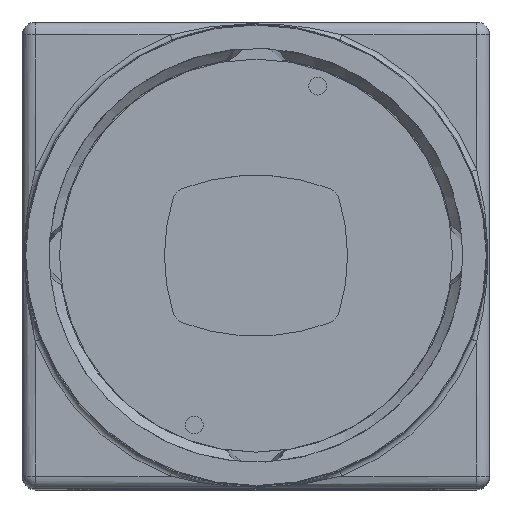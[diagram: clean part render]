
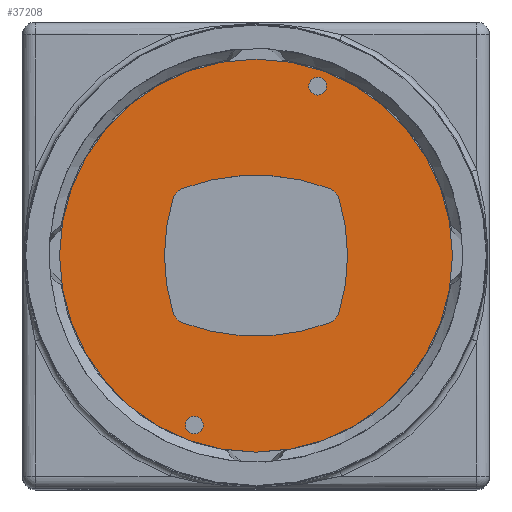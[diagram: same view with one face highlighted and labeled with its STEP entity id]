
A CAD part, top view. The second image highlights one B-rep face of the part: STEP entity #37208.
In plain terms, the highlighted planar face has unit normal (0, 0, 1).
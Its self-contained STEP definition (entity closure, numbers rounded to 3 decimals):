
#5740=PLANE('',#39851);
#12806=ORIENTED_EDGE('',*,*,#16437,.T.);
#12807=ORIENTED_EDGE('',*,*,#16438,.T.);
#12808=ORIENTED_EDGE('',*,*,#16421,.T.);
#12809=ORIENTED_EDGE('',*,*,#16439,.T.);
#12810=ORIENTED_EDGE('',*,*,#16431,.T.);
#12811=ORIENTED_EDGE('',*,*,#16440,.T.);
#12812=ORIENTED_EDGE('',*,*,#16427,.T.);
#12813=ORIENTED_EDGE('',*,*,#16441,.T.);
#12814=ORIENTED_EDGE('',*,*,#16423,.T.);
#12815=ORIENTED_EDGE('',*,*,#16442,.T.);
#12816=ORIENTED_EDGE('',*,*,#16436,.F.);
#16421=EDGE_CURVE('',#18895,#18894,#19972,.T.);
#16423=EDGE_CURVE('',#18896,#18897,#19973,.T.);
#16427=EDGE_CURVE('',#18900,#18901,#19975,.T.);
#16431=EDGE_CURVE('',#18904,#18905,#19977,.T.);
#16436=EDGE_CURVE('',#18909,#18909,#19980,.T.);
#16437=EDGE_CURVE('',#18910,#18910,#19981,.T.);
#16438=EDGE_CURVE('',#18911,#18911,#19982,.T.);
#16439=EDGE_CURVE('',#18894,#18904,#19983,.T.);
#16440=EDGE_CURVE('',#18905,#18900,#19984,.T.);
#16441=EDGE_CURVE('',#18901,#18896,#19985,.T.);
#16442=EDGE_CURVE('',#18897,#18895,#19986,.T.);
#18894=VERTEX_POINT('',#57066);
#18895=VERTEX_POINT('',#57068);
#18896=VERTEX_POINT('',#57072);
#18897=VERTEX_POINT('',#57073);
#18900=VERTEX_POINT('',#57081);
#18901=VERTEX_POINT('',#57082);
#18904=VERTEX_POINT('',#57090);
#18905=VERTEX_POINT('',#57091);
#18909=VERTEX_POINT('',#57101);
#18910=VERTEX_POINT('',#57104);
#18911=VERTEX_POINT('',#57106);
#19972=CIRCLE('',#39838,12.);
#19973=CIRCLE('',#39840,13.);
#19975=CIRCLE('',#39843,12.);
#19977=CIRCLE('',#39846,13.);
#19980=CIRCLE('',#39850,12.2);
#19981=CIRCLE('',#39852,0.55);
#19982=CIRCLE('',#39853,0.55);
#19983=CIRCLE('',#39854,1.);
#19984=CIRCLE('',#39855,1.);
#19985=CIRCLE('',#39856,1.);
#19986=CIRCLE('',#39857,1.);
#22067=EDGE_LOOP('',(#12806));
#22068=EDGE_LOOP('',(#12807));
#22069=EDGE_LOOP('',(#12808,#12809,#12810,#12811,#12812,#12813,#12814,#12815));
#22070=EDGE_LOOP('',(#12816));
#24152=FACE_BOUND('',#22067,.T.);
#24153=FACE_BOUND('',#22068,.T.);
#24154=FACE_BOUND('',#22069,.T.);
#24155=FACE_BOUND('',#22070,.T.);
#37208=ADVANCED_FACE('',(#24152,#24153,#24154,#24155),#5740,.F.);
#39838=AXIS2_PLACEMENT_3D('',#57067,#47189,#47190);
#39840=AXIS2_PLACEMENT_3D('',#57071,#47194,#47195);
#39843=AXIS2_PLACEMENT_3D('',#57080,#47202,#47203);
#39846=AXIS2_PLACEMENT_3D('',#57089,#47210,#47211);
#39850=AXIS2_PLACEMENT_3D('',#57100,#47220,#47221);
#39851=AXIS2_PLACEMENT_3D('',#57102,#47222,#47223);
#39852=AXIS2_PLACEMENT_3D('',#57103,#47224,#47225);
#39853=AXIS2_PLACEMENT_3D('',#57105,#47226,#47227);
#39854=AXIS2_PLACEMENT_3D('',#57107,#47228,#47229);
#39855=AXIS2_PLACEMENT_3D('',#57108,#47230,#47231);
#39856=AXIS2_PLACEMENT_3D('',#57109,#47232,#47233);
#39857=AXIS2_PLACEMENT_3D('',#57110,#47234,#47235);
#47189=DIRECTION('',(0.,0.,-1.));
#47190=DIRECTION('',(-1.,0.,0.));
#47194=DIRECTION('',(0.,0.,-1.));
#47195=DIRECTION('',(1.,0.,0.));
#47202=DIRECTION('',(0.,0.,-1.));
#47203=DIRECTION('',(1.,0.,0.));
#47210=DIRECTION('',(0.,0.,-1.));
#47211=DIRECTION('',(1.,0.,0.));
#47220=DIRECTION('',(0.,0.,-1.));
#47221=DIRECTION('',(-1.,0.,0.));
#47222=DIRECTION('',(0.,0.,-1.));
#47223=DIRECTION('',(-1.,0.,0.));
#47224=DIRECTION('',(0.,0.,-1.));
#47225=DIRECTION('',(0.,-1.,0.));
#47226=DIRECTION('',(0.,0.,-1.));
#47227=DIRECTION('',(0.,-1.,0.));
#47228=DIRECTION('',(0.,0.,-1.));
#47229=DIRECTION('',(-1.,0.,0.));
#47230=DIRECTION('',(0.,0.,-1.));
#47231=DIRECTION('',(-1.,0.,0.));
#47232=DIRECTION('',(0.,0.,-1.));
#47233=DIRECTION('',(-1.,0.,0.));
#47234=DIRECTION('',(0.,0.,-1.));
#47235=DIRECTION('',(-1.,0.,0.));
#57066=CARTESIAN_POINT('',(5.153,-3.537,5.8));
#57067=CARTESIAN_POINT('',(-6.314,0.,5.8));
#57068=CARTESIAN_POINT('',(5.153,3.537,5.8));
#57071=CARTESIAN_POINT('',(0.,-8.,5.8));
#57072=CARTESIAN_POINT('',(-4.548,4.179,5.8));
#57073=CARTESIAN_POINT('',(4.548,4.179,5.8));
#57080=CARTESIAN_POINT('',(6.314,0.,5.8));
#57081=CARTESIAN_POINT('',(-5.153,-3.537,5.8));
#57082=CARTESIAN_POINT('',(-5.153,3.537,5.8));
#57089=CARTESIAN_POINT('',(0.,8.,5.8));
#57090=CARTESIAN_POINT('',(4.548,-4.179,5.8));
#57091=CARTESIAN_POINT('',(-4.548,-4.179,5.8));
#57100=CARTESIAN_POINT('',(0.,0.,
5.8));
#57101=CARTESIAN_POINT('',(-12.2,0.,5.8));
#57102=CARTESIAN_POINT('',(1.907,5.239,5.8));
#57103=CARTESIAN_POINT('',(-3.831,-10.525,5.8));
#57104=CARTESIAN_POINT('',(-3.831,-11.075,5.8));
#57105=CARTESIAN_POINT('',(3.831,10.525,5.8));
#57106=CARTESIAN_POINT('',(3.831,9.975,5.8));
#57107=CARTESIAN_POINT('',(4.198,-3.242,5.8));
#57108=CARTESIAN_POINT('',(-4.198,-3.242,5.8));
#57109=CARTESIAN_POINT('',(-4.198,3.242,5.8));
#57110=CARTESIAN_POINT('',(4.198,3.242,5.8));
